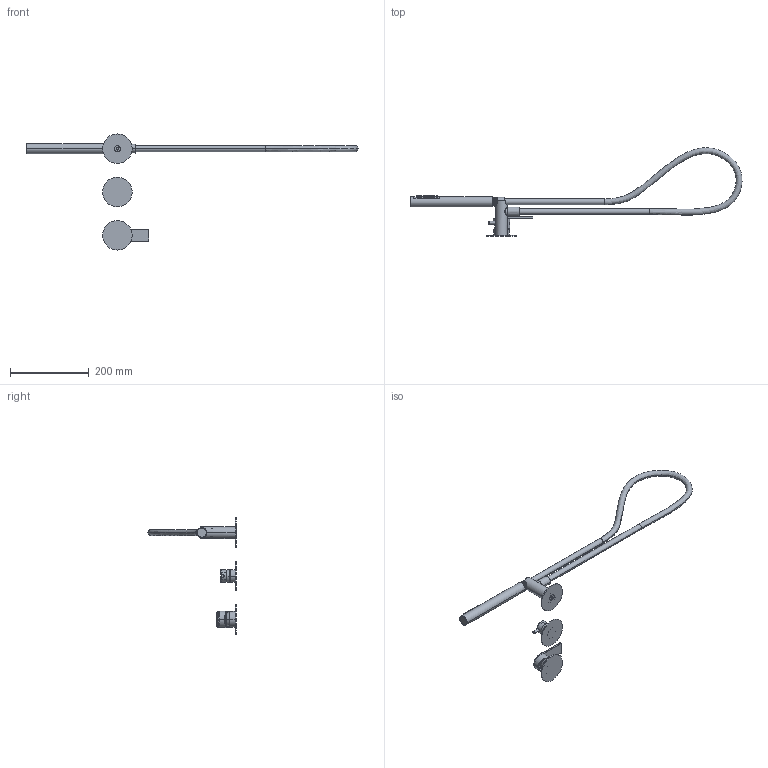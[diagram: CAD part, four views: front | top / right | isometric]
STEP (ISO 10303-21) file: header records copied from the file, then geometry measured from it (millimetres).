
FILE_DESCRIPTION((''),'2;1');
FILE_NAME('47559V2_SW0001','2024-12-13T11:59:53',('carloff'),(''),'CREO PARAMETRIC BY PTC INC, 2022014','CREO PARAMETRIC BY PTC INC, 2022014','');
FILE_SCHEMA(('CONFIG_CONTROL_DESIGN'));
Products named in the file (1): 47559V2_SW0001
Bounding box: 842.89 x 223.78 x 295 mm (x, y, z)
Volume: 445856.3 mm3; surface area: 182079.2 mm2
Topology: 4 solids, 4 shells, 790 faces, 1980 edges, 1236 vertices
Faces by surface type: cylinder 352, plane 171, bspline 121, cone 94, torus 48, sphere 4
Entity records: 77680 total; most frequent: CARTESIAN_POINT 60439, ORIENTED_EDGE 3908, DIRECTION 2982, EDGE_CURVE 1954, VERTEX_POINT 1236, AXIS2_PLACEMENT_3D 1142, EDGE_LOOP 878, FACE_OUTER_BOUND 790
